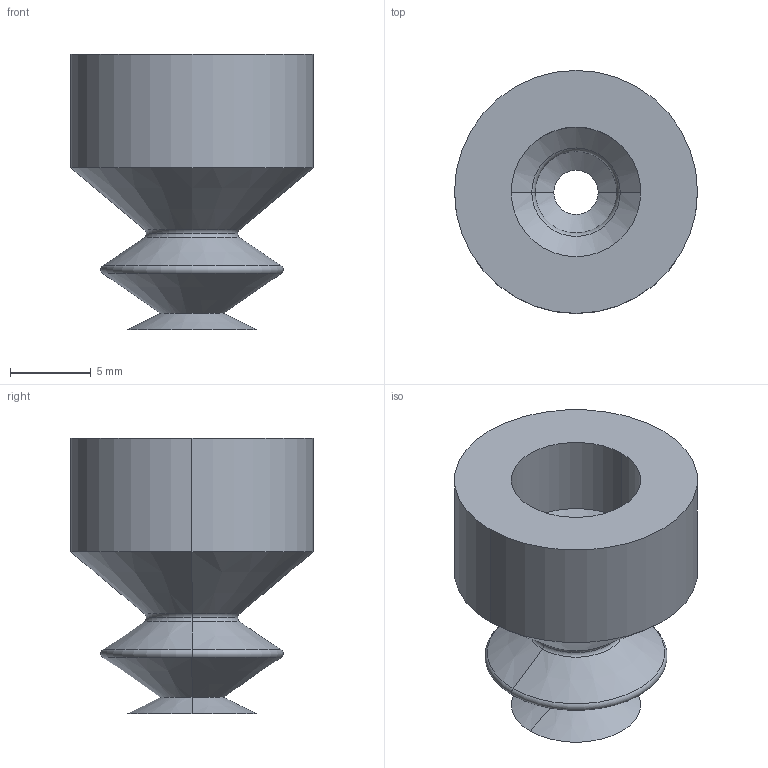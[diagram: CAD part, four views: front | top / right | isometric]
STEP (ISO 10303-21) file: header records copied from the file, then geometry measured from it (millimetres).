
FILE_DESCRIPTION (( 'STEP AP214' ), '1' );
FILE_NAME ('VSH2-M8.STEP', '2019-12-02T06:24:44', ( '微软用户' ), ( '微软中国' ), 'SwSTEP 2.0', 'SolidWorks 2016', '' );
FILE_SCHEMA (( 'AUTOMOTIVE_DESIGN' ));
Length unit declared in the file: millimetre
Products named in the file (1): VSH2-M8
Bounding box: 15 x 15 x 17 mm (x, y, z)
Volume: 788.4 mm3; surface area: 1657.1 mm2
Topology: 1 solids, 1 shells, 35 faces, 70 edges, 38 vertices
Faces by surface type: cone 16, torus 10, cylinder 6, plane 3
Entity records: 942 total; most frequent: DIRECTION 190, CARTESIAN_POINT 144, ORIENTED_EDGE 140, AXIS2_PLACEMENT_3D 84, EDGE_CURVE 70, CIRCLE 48, EDGE_LOOP 38, VERTEX_POINT 38
